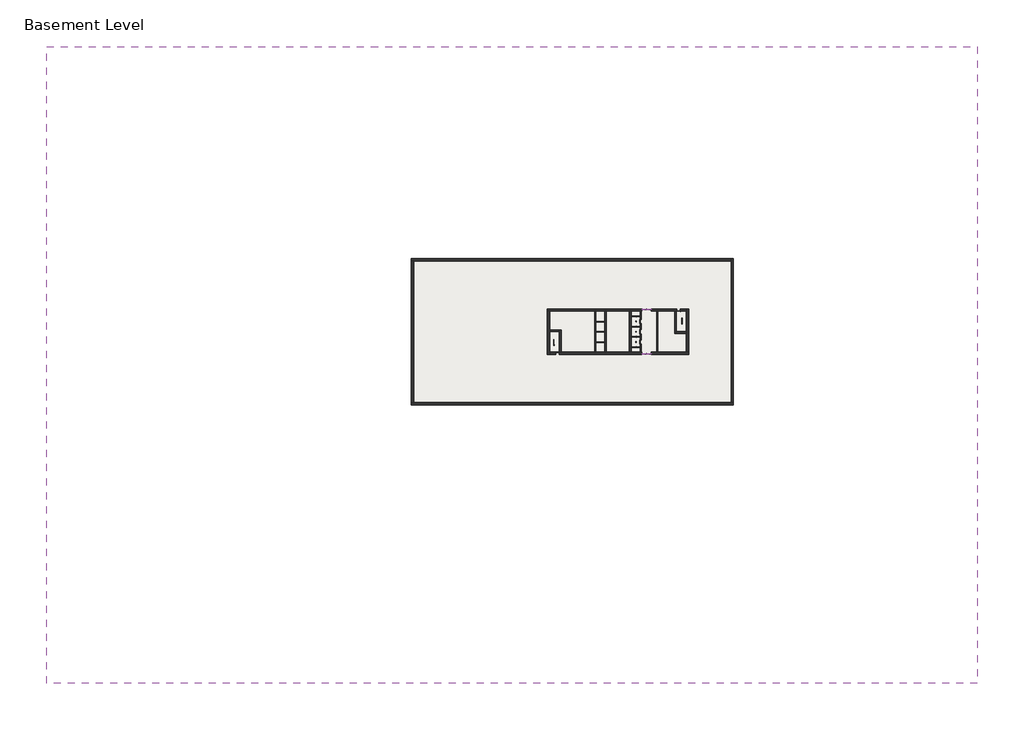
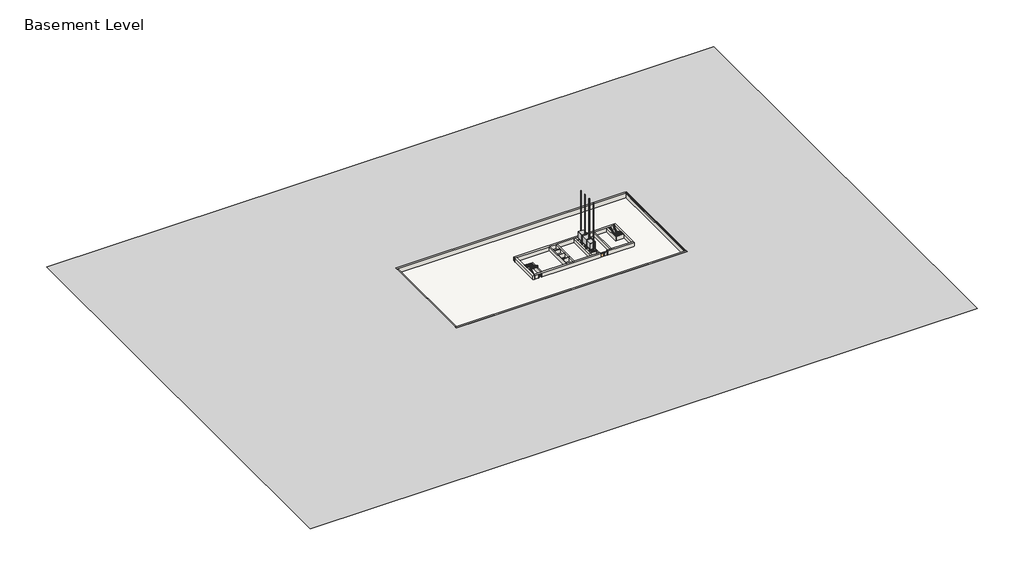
# One storey, incomplete: 24 members, 24 walls, 7 proxies, 6 plates, 4 doors, 4 railings, 3 slabs.
"""IFC4 building model written with IfcOpenShell, lengths in millimetres."""

from ifc_helpers import new_model, si_unit, frame, origin, place, context, project, spatial, polyline, outline, extrude, faceted_brep, triangles, transform, mapped, element, save
from components import proxy_3500_lbs_85ff0118, proxy_7fed659c, curtain_wall_sgl_glass_curtain_wall_sgl_glass_8fcb11fa, curtain_wall_sgl_glass_curtain_wall_sgl_glass_453d5037, door_c3c8cf1c, member_75074519, member_0585f7b2, member_9597caa3, member_b2bde9e6, member_8c690d98, member_3fe7ce38, system_panel_glazed_2148303e, system_panel_glazed_f840508f, system_panel_glazed_a7e6577e, system_panel_glazed_8ef02081, handrail_rectangular_c728cfe4, handrail_rectangular_09896a94, handrail_rectangular_35e503dc, handrail_rectangular_f2ca4272

model = new_model("IFC4")

# Units and contexts
model_context = context("Model", 3, world=origin())
ifc_project = project(units=[si_unit("LENGTHUNIT", "METRE", prefix="MILLI")], contexts=[model_context])

# Site, building, storey
site = spatial("IfcSite", under=ifc_project)
building = spatial("IfcBuilding", under=site)
storey = spatial("IfcBuildingStorey", under=building, Name="Basement Level", Elevation=-3048.0)

# Proxies
placement = place(None, origin())
element("IfcBuildingElementProxy", 1, Name="Building Element Proxy", at=placement, inside=storey, context=model_context, shape_type="Tessellation", body=[
    triangles([(78582.8406006, -100588.3346191, -152.4), (78582.8406006, 65222.8653809, -152.4), (-163596.3026367, 65222.8653809, -152.4), (-163596.3026367, -100588.3346191, -152.4), (-68723.8702881, -28082.2114746, -152.4), (-68723.8702881, 10017.7896881, -152.4), (-2048.1300716, 10017.7896881, -152.4), (15096.1285492, 10017.7896881, -152.4), (15096.1285492, -28082.2114746, -152.4), (-57695.9108643, -28082.2114746, -152.4)], [[4, 5, 3], [5, 4, 10], [5, 6, 3], [3, 6, 2], [4, 1, 10], [9, 1, 2], [1, 9, 10], [7, 8, 2], [2, 8, 9], [7, 2, 6]], closed=False),
])
proxy_3500_lbs_shape = proxy_3500_lbs_85ff0118(model_context)
element("IfcBuildingElementProxy", 2, Name="Elevator-Hydraulic[1] : 3500 lbs", ObjectType="Elevator-Hydraulic[1] : 3500 lbs", at=placement, inside=storey, context=model_context, shape_type="MappedRepresentation", body=[
    mapped(proxy_3500_lbs_shape, transform((-10221.2209663, -11691.7633527, -3048.0), x_axis=(0.0, -1.0, 0.0), y_axis=(1.0, 0.0, 0.0), z_axis=(0.0, 0.0, 1.0))),
])
element("IfcBuildingElementProxy", 3, Name="Elevator-Hydraulic[1] : 3500 lbs", ObjectType="Elevator-Hydraulic[1] : 3500 lbs", at=placement, inside=storey, context=model_context, shape_type="MappedRepresentation", body=[
    mapped(proxy_3500_lbs_shape, transform((-10221.2209663, -9024.7633527, -3048.0), x_axis=(0.0, -1.0, 0.0), y_axis=(1.0, 0.0, 0.0), z_axis=(0.0, 0.0, 1.0))),
])
element("IfcBuildingElementProxy", 4, Name="Elevator-Hydraulic[1] : 3500 lbs", ObjectType="Elevator-Hydraulic[1] : 3500 lbs", at=placement, inside=storey, context=model_context, shape_type="MappedRepresentation", body=[
    mapped(proxy_3500_lbs_shape, transform((-10221.2209663, -6357.7633527, -3048.0), x_axis=(0.0, -1.0, 0.0), y_axis=(1.0, 0.0, 0.0), z_axis=(0.0, 0.0, 1.0))),
])
proxy_shape = proxy_7fed659c(model_context)
element("IfcBuildingElementProxy", 5, Name="Elevator%20Door-Center[1] : 42\" x 84\"", ObjectType="Elevator%20Door-Center[1] : 42\" x 84\"", at=placement, inside=storey, context=model_context, shape_type="MappedRepresentation", body=[
    mapped(proxy_shape, transform((-9030.2427926, -6266.0747049, -3048.0), x_axis=(0.0, 1.0, 0.0), y_axis=(-1.0, 0.0, 0.0), z_axis=(0.0, 0.0, 1.0))),
])
element("IfcBuildingElementProxy", 6, Name="Elevator%20Door-Center[1] : 42\" x 84\"", ObjectType="Elevator%20Door-Center[1] : 42\" x 84\"", at=placement, inside=storey, context=model_context, shape_type="MappedRepresentation", body=[
    mapped(proxy_shape, transform((-9030.2427926, -8933.0747049, -3048.0), x_axis=(0.0, 1.0, 0.0), y_axis=(-1.0, 0.0, 0.0), z_axis=(0.0, 0.0, 1.0))),
])
element("IfcBuildingElementProxy", 7, Name="Elevator%20Door-Center[1] : 42\" x 84\"", ObjectType="Elevator%20Door-Center[1] : 42\" x 84\"", at=placement, inside=storey, context=model_context, shape_type="MappedRepresentation", body=[
    mapped(proxy_shape, transform((-9030.2427926, -11600.0747049, -3048.0), x_axis=(0.0, 1.0, 0.0), y_axis=(-1.0, 0.0, 0.0), z_axis=(0.0, 0.0, 1.0))),
])

# Doors
curtain_wall_sgl_glass_curtain_wall_sgl_glass_shape = curtain_wall_sgl_glass_curtain_wall_sgl_glass_8fcb11fa(model_context)
element("IfcDoor", 8, ObjectType="Curtain Wall Sgl Glass : Curtain Wall Sgl Glass", at=placement, inside=storey, context=model_context, shape_type="MappedRepresentation", body=[
    mapped(curtain_wall_sgl_glass_curtain_wall_sgl_glass_shape, transform((-8089.0820783, -3241.0103492, -3009.9), x_axis=(-1.0, 0.0, 0.0), y_axis=(0.0, -1.0, 0.0), z_axis=(0.0, 0.0, 1.0))),
])
curtain_wall_sgl_glass_curtain_wall_sgl_glass_2_shape = curtain_wall_sgl_glass_curtain_wall_sgl_glass_453d5037(model_context)
element("IfcDoor", 9, ObjectType="Curtain Wall Sgl Glass : Curtain Wall Sgl Glass", at=placement, inside=storey, context=model_context, shape_type="MappedRepresentation", body=[
    mapped(curtain_wall_sgl_glass_curtain_wall_sgl_glass_2_shape, transform((-8089.0820783, -14823.4103492, -3009.9), x_axis=(-1.0, 0.0, 0.0), y_axis=(0.0, -1.0, 0.0), z_axis=(0.0, 0.0, 1.0))),
])
door_shape = door_c3c8cf1c(model_context)
element("IfcDoor", 10, ObjectType="Single-Flush : 36\" x 84\"", at=placement, inside=storey, context=model_context, shape_type="MappedRepresentation", body=[
    mapped(door_shape, transform((-30700.0713641, -14671.0103492, -3048.0), x_axis=(1.0, 0.0, 0.0), y_axis=(0.0, 1.0, 0.0), z_axis=(0.0, 0.0, 1.0))),
])
element("IfcDoor", 11, ObjectType="Single-Flush : 36\" x 84\"", at=placement, inside=storey, context=model_context, shape_type="MappedRepresentation", body=[
    mapped(door_shape, transform((817.7000645, -3393.4103492, -3048.0), x_axis=(-1.0, 0.0, 0.0), y_axis=(0.0, -1.0, 0.0), z_axis=(0.0, 0.0, 1.0))),
])

# Members
member_shape = member_75074519(model_context)
element("IfcMember", 12, ObjectType="Rectangular Mullion : 2.5\" x 5\" rectangular", at=placement, inside=storey, context=model_context, shape_type="MappedRepresentation", body=[
    mapped(member_shape, transform((-6276.1570783, -3241.0103492, -434.975), x_axis=(0.0, 0.0, 1.0), y_axis=(0.0, -1.0, 0.0), z_axis=(1.0, 0.0, 0.0))),
])
element("IfcMember", 13, ObjectType="Rectangular Mullion : 2.5\" x 5\" rectangular", at=placement, inside=storey, context=model_context, shape_type="MappedRepresentation", body=[
    mapped(member_shape, transform((-7495.3570783, -3241.0103492, -434.975), x_axis=(0.0, 0.0, 1.0), y_axis=(0.0, -1.0, 0.0), z_axis=(1.0, 0.0, 0.0))),
])
element("IfcMember", 14, ObjectType="Rectangular Mullion : 2.5\" x 5\" rectangular", at=placement, inside=storey, context=model_context, shape_type="MappedRepresentation", body=[
    mapped(member_shape, transform((-8714.5570783, -3241.0103492, -3073.4), x_axis=(0.0, 0.0, -1.0), y_axis=(0.0, -1.0, 0.0), z_axis=(-1.0, 0.0, 0.0))),
])
element("IfcMember", 15, ObjectType="Rectangular Mullion : 2.5\" x 5\" rectangular", at=placement, inside=storey, context=model_context, shape_type="MappedRepresentation", body=[
    mapped(member_shape, transform((-7495.3570783, -3241.0103492, -3073.4), x_axis=(0.0, 0.0, -1.0), y_axis=(0.0, -1.0, 0.0), z_axis=(-1.0, 0.0, 0.0))),
])
member_2_shape = member_0585f7b2(model_context)
element("IfcMember", 16, ObjectType="Rectangular Mullion : 2.5\" x 5\" rectangular", at=placement, inside=storey, context=model_context, shape_type="MappedRepresentation", body=[
    mapped(member_2_shape, transform((-7495.3570783, -3241.0103492, -635.0), x_axis=(0.0, 0.0, 1.0), y_axis=(0.0, -1.0, 0.0), z_axis=(1.0, 0.0, 0.0))),
])
element("IfcMember", 17, ObjectType="Rectangular Mullion : 2.5\" x 5\" rectangular", at=placement, inside=storey, context=model_context, shape_type="MappedRepresentation", body=[
    mapped(member_2_shape, transform((-6339.6570783, -3241.0103492, -635.0), x_axis=(0.0, 0.0, 1.0), y_axis=(0.0, -1.0, 0.0), z_axis=(1.0, 0.0, 0.0))),
])
member_3_shape = member_9597caa3(model_context)
element("IfcMember", 18, ObjectType="Rectangular Mullion : 2.5\" x 5\" rectangular", at=placement, inside=storey, context=model_context, shape_type="MappedRepresentation", body=[
    mapped(member_3_shape, transform((-7495.3570783, -3241.0103492, -3009.9), x_axis=(1.0, 0.0, 0.0), y_axis=(0.0, -1.0, 0.0), z_axis=(0.0, 0.0, -1.0))),
])
member_4_shape = member_b2bde9e6(model_context)
element("IfcMember", 19, ObjectType="Rectangular Mullion : 2.5\" x 5\" rectangular", at=placement, inside=storey, context=model_context, shape_type="MappedRepresentation", body=[
    mapped(member_4_shape, transform((-6276.1570783, -3241.0103492, -3009.9), x_axis=(1.0, 0.0, 0.0), y_axis=(0.0, -1.0, 0.0), z_axis=(0.0, 0.0, -1.0))),
])
element("IfcMember", 20, ObjectType="Rectangular Mullion : 2.5\" x 5\" rectangular", at=placement, inside=storey, context=model_context, shape_type="MappedRepresentation", body=[
    mapped(member_4_shape, transform((-8714.5570783, -3241.0103492, -635.0), x_axis=(-1.0, 0.0, 0.0), y_axis=(0.0, -1.0, 0.0), z_axis=(0.0, 0.0, 1.0))),
])
element("IfcMember", 21, ObjectType="Rectangular Mullion : 2.5\" x 5\" rectangular", at=placement, inside=storey, context=model_context, shape_type="MappedRepresentation", body=[
    mapped(member_shape, transform((-8714.5570783, -14823.4103492, -3073.4), x_axis=(0.0, 0.0, -1.0), y_axis=(0.0, -1.0, 0.0), z_axis=(-1.0, 0.0, 0.0))),
])
element("IfcMember", 22, ObjectType="Rectangular Mullion : 2.5\" x 5\" rectangular", at=placement, inside=storey, context=model_context, shape_type="MappedRepresentation", body=[
    mapped(member_shape, transform((-7495.3570783, -14823.4103492, -3073.4), x_axis=(0.0, 0.0, -1.0), y_axis=(0.0, -1.0, 0.0), z_axis=(-1.0, 0.0, 0.0))),
])
element("IfcMember", 23, ObjectType="Rectangular Mullion : 2.5\" x 5\" rectangular", at=placement, inside=storey, context=model_context, shape_type="MappedRepresentation", body=[
    mapped(member_2_shape, transform((-7495.3570783, -14823.4103492, -635.0), x_axis=(0.0, 0.0, 1.0), y_axis=(0.0, -1.0, 0.0), z_axis=(1.0, 0.0, 0.0))),
])
element("IfcMember", 24, ObjectType="Rectangular Mullion : 2.5\" x 5\" rectangular", at=placement, inside=storey, context=model_context, shape_type="MappedRepresentation", body=[
    mapped(member_2_shape, transform((-6339.6570783, -14823.4103492, -635.0), x_axis=(0.0, 0.0, 1.0), y_axis=(0.0, -1.0, 0.0), z_axis=(1.0, 0.0, 0.0))),
])
element("IfcMember", 25, ObjectType="Rectangular Mullion : 2.5\" x 5\" rectangular", at=placement, inside=storey, context=model_context, shape_type="MappedRepresentation", body=[
    mapped(member_3_shape, transform((-7495.3570783, -14823.4103492, -3009.9), x_axis=(1.0, 0.0, 0.0), y_axis=(0.0, -1.0, 0.0), z_axis=(0.0, 0.0, -1.0))),
])
element("IfcMember", 26, ObjectType="Rectangular Mullion : 2.5\" x 5\" rectangular", at=placement, inside=storey, context=model_context, shape_type="MappedRepresentation", body=[
    mapped(member_4_shape, transform((-6276.1570783, -14823.4103492, -3009.9), x_axis=(1.0, 0.0, 0.0), y_axis=(0.0, -1.0, 0.0), z_axis=(0.0, 0.0, -1.0))),
])
element("IfcMember", 27, ObjectType="Rectangular Mullion : 2.5\" x 5\" rectangular", at=placement, inside=storey, context=model_context, shape_type="MappedRepresentation", body=[
    mapped(member_4_shape, transform((-8714.5570783, -14823.4103492, -635.0), x_axis=(-1.0, 0.0, 0.0), y_axis=(0.0, -1.0, 0.0), z_axis=(0.0, 0.0, 1.0))),
])
member_5_shape = member_8c690d98(model_context)
element("IfcMember", 28, ObjectType="Rectangular Mullion : 2.5\" x 5\" rectangular", at=placement, inside=storey, context=model_context, shape_type="MappedRepresentation", body=[
    mapped(member_5_shape, transform((-6276.1570783, -3241.0103492, -635.0), x_axis=(1.0, 0.0, 0.0), y_axis=(0.0, -1.0, 0.0), z_axis=(0.0, 0.0, -1.0))),
])
element("IfcMember", 29, ObjectType="Rectangular Mullion : 2.5\" x 5\" rectangular", at=placement, inside=storey, context=model_context, shape_type="MappedRepresentation", body=[
    mapped(member_5_shape, transform((-8714.5570783, -3241.0103492, -498.475), x_axis=(-1.0, 0.0, 0.0), y_axis=(0.0, -1.0, 0.0), z_axis=(0.0, 0.0, 1.0))),
])
member_6_shape = member_3fe7ce38(model_context)
element("IfcMember", 30, ObjectType="Rectangular Mullion : 2.5\" x 5\" rectangular", at=placement, inside=storey, context=model_context, shape_type="MappedRepresentation", body=[
    mapped(member_6_shape, transform((-7495.3570783, -3241.0103492, -603.25), x_axis=(1.0, 0.0, 0.0), y_axis=(0.0, -1.0, 0.0), z_axis=(0.0, 0.0, -1.0))),
])
element("IfcMember", 31, ObjectType="Rectangular Mullion : 2.5\" x 5\" rectangular", at=placement, inside=storey, context=model_context, shape_type="MappedRepresentation", body=[
    mapped(member_5_shape, transform((-6276.1570783, -14823.4103492, -635.0), x_axis=(1.0, 0.0, 0.0), y_axis=(0.0, -1.0, 0.0), z_axis=(0.0, 0.0, -1.0))),
])
element("IfcMember", 32, ObjectType="Rectangular Mullion : 2.5\" x 5\" rectangular", at=placement, inside=storey, context=model_context, shape_type="MappedRepresentation", body=[
    mapped(member_5_shape, transform((-8714.5570783, -14823.4103492, -498.475), x_axis=(-1.0, 0.0, 0.0), y_axis=(0.0, -1.0, 0.0), z_axis=(0.0, 0.0, 1.0))),
])
element("IfcMember", 33, ObjectType="Rectangular Mullion : 2.5\" x 5\" rectangular", at=placement, inside=storey, context=model_context, shape_type="MappedRepresentation", body=[
    mapped(member_6_shape, transform((-7495.3570783, -14823.4103492, -603.25), x_axis=(1.0, 0.0, 0.0), y_axis=(0.0, -1.0, 0.0), z_axis=(0.0, 0.0, -1.0))),
])
element("IfcMember", 34, ObjectType="Rectangular Mullion : 2.5\" x 5\" rectangular", at=placement, inside=storey, context=model_context, shape_type="MappedRepresentation", body=[
    mapped(member_shape, transform((-6276.1570783, -14823.4103492, -434.975), x_axis=(0.0, 0.0, 1.0), y_axis=(0.0, -1.0, 0.0), z_axis=(1.0, 0.0, 0.0))),
])
element("IfcMember", 35, ObjectType="Rectangular Mullion : 2.5\" x 5\" rectangular", at=placement, inside=storey, context=model_context, shape_type="MappedRepresentation", body=[
    mapped(member_shape, transform((-7495.3570783, -14823.4103492, -434.975), x_axis=(0.0, 0.0, 1.0), y_axis=(0.0, -1.0, 0.0), z_axis=(1.0, 0.0, 0.0))),
])

# Plates
system_panel_glazed_shape = system_panel_glazed_2148303e(model_context)
element("IfcPlate", 36, ObjectType="System Panel : Glazed", at=placement, inside=storey, context=model_context, shape_type="MappedRepresentation", body=[
    mapped(system_panel_glazed_shape, transform((-6901.6320783, -3241.0103492, -3009.9), x_axis=(1.0, 0.0, 0.0), y_axis=(0.0, 1.0, 0.0), z_axis=(0.0, 0.0, 1.0))),
])
system_panel_glazed_2_shape = system_panel_glazed_f840508f(model_context)
element("IfcPlate", 37, ObjectType="System Panel : Glazed", at=placement, inside=storey, context=model_context, shape_type="MappedRepresentation", body=[
    mapped(system_panel_glazed_2_shape, transform((-6901.6320783, -14823.4103492, -3009.9), x_axis=(1.0, 0.0, 0.0), y_axis=(0.0, 1.0, 0.0), z_axis=(0.0, 0.0, 1.0))),
])
system_panel_glazed_3_shape = system_panel_glazed_a7e6577e(model_context)
element("IfcPlate", 38, ObjectType="System Panel : Glazed", at=placement, inside=storey, context=model_context, shape_type="MappedRepresentation", body=[
    mapped(system_panel_glazed_3_shape, transform((-8089.0820783, -3241.0103492, -603.25), x_axis=(1.0, 0.0, 0.0), y_axis=(0.0, 1.0, 0.0), z_axis=(0.0, 0.0, 1.0))),
])
element("IfcPlate", 39, ObjectType="System Panel : Glazed", at=placement, inside=storey, context=model_context, shape_type="MappedRepresentation", body=[
    mapped(system_panel_glazed_3_shape, transform((-6901.6320783, -3241.0103492, -603.25), x_axis=(1.0, 0.0, 0.0), y_axis=(0.0, 1.0, 0.0), z_axis=(0.0, 0.0, 1.0))),
])
system_panel_glazed_4_shape = system_panel_glazed_8ef02081(model_context)
element("IfcPlate", 40, ObjectType="System Panel : Glazed", at=placement, inside=storey, context=model_context, shape_type="MappedRepresentation", body=[
    mapped(system_panel_glazed_4_shape, transform((-8089.0820783, -14823.4103492, -603.25), x_axis=(1.0, 0.0, 0.0), y_axis=(0.0, 1.0, 0.0), z_axis=(0.0, 0.0, 1.0))),
])
element("IfcPlate", 41, ObjectType="System Panel : Glazed", at=placement, inside=storey, context=model_context, shape_type="MappedRepresentation", body=[
    mapped(system_panel_glazed_4_shape, transform((-6901.6320783, -14823.4103492, -603.25), x_axis=(1.0, 0.0, 0.0), y_axis=(0.0, 1.0, 0.0), z_axis=(0.0, 0.0, 1.0))),
])

# Railings
handrail_rectangular_shape = handrail_rectangular_c728cfe4(model_context)
element("IfcRailing", 42, ObjectType="Handrail - Rectangular", at=placement, inside=storey, context=model_context, shape_type="MappedRepresentation", body=[
    mapped(handrail_rectangular_shape, transform((0.0, 0.0, 0.0), x_axis=(1.0, 0.0, 0.0), y_axis=(0.0, 1.0, 0.0), z_axis=(0.0, 0.0, 1.0))),
])
handrail_rectangular_2_shape = handrail_rectangular_09896a94(model_context)
element("IfcRailing", 43, ObjectType="Handrail - Rectangular", at=placement, inside=storey, context=model_context, shape_type="MappedRepresentation", body=[
    mapped(handrail_rectangular_2_shape, transform((0.0, 0.0, 0.0), x_axis=(1.0, 0.0, 0.0), y_axis=(0.0, 1.0, 0.0), z_axis=(0.0, 0.0, 1.0))),
])
handrail_rectangular_3_shape = handrail_rectangular_35e503dc(model_context)
element("IfcRailing", 44, ObjectType="Handrail - Rectangular", at=placement, inside=storey, context=model_context, shape_type="MappedRepresentation", body=[
    mapped(handrail_rectangular_3_shape, transform((0.0, 0.0, 0.0), x_axis=(1.0, 0.0, 0.0), y_axis=(0.0, 1.0, 0.0), z_axis=(0.0, 0.0, 1.0))),
])
handrail_rectangular_4_shape = handrail_rectangular_f2ca4272(model_context)
element("IfcRailing", 45, ObjectType="Handrail - Rectangular", at=placement, inside=storey, context=model_context, shape_type="MappedRepresentation", body=[
    mapped(handrail_rectangular_4_shape, transform((0.0, 0.0, 0.0), x_axis=(1.0, 0.0, 0.0), y_axis=(0.0, 1.0, 0.0), z_axis=(0.0, 0.0, 1.0))),
])

# Slabs
element("IfcSlab", 46, ObjectType="6\" Foundation Slab", at=placement, inside=storey, context=model_context, shape_type="SweptSolid", body=[
    extrude(outline(polyline([(-68114.2713641, -27472.6103492), (-68114.2713641, 9408.1896508), (14486.5286359, 9408.1896508), (14486.5286359, -27472.6103492), (-68114.2713641, -27472.6103492)])), frame((0.0, 0.0, -3200.4), z_axis=(0.0, 0.0, 1.0), x_axis=(1.0, 0.0, 0.0)), (0.0, 0.0, 1.0), 152.4),
])
element("IfcSlab", 47, ObjectType="Generic - 4\"", at=placement, inside=storey, context=model_context, shape_type="SweptSolid", body=[
    extrude(outline(polyline([(-68114.2713641, -27472.6103492), (-68114.2713641, 9408.1896508), (14486.5286359, 9408.1896508), (14486.5286359, -27472.6103492), (-68114.2713641, -27472.6103492)])), frame((0.0, 0.0, -3149.6), z_axis=(0.0, 0.0, 1.0), x_axis=(1.0, 0.0, 0.0)), (0.0, 0.0, 1.0), 101.6),
])
element("IfcSlab", 48, ObjectType="Pad 1", at=placement, inside=storey, context=model_context, shape_type="SweptSolid", body=[
    extrude(outline(polyline([(-68723.8713641, -28082.2103492), (-68723.8713641, 10017.7896508), (15096.1286359, 10017.7896508), (15096.1286359, -28082.2103492), (-68723.8713641, -28082.2103492)])), frame((0.0, 0.0, -2286.0), z_axis=(0.0, 0.0, 1.0), x_axis=(1.0, 0.0, 0.0)), (0.0, 0.0, 1.0), 304.8),
])

# Walls
element("IfcWall", 49, ObjectType="Core-shaft 10\" Concrete", at=placement, inside=storey, context=model_context, shape_type="SweptSolid", body=[
    extrude(outline(polyline([(-20725.1285069, -3698.2103492), (-20725.1285069, -14366.2103492), (-20979.1285069, -14366.2103492), (-20979.1285069, -3698.2103492), (-20725.1285069, -3698.2103492)])), frame((0.0, 0.0, -3048.0), z_axis=(0.0, 0.0, 1.0), x_axis=(1.0, 0.0, 0.0)), (0.0, 0.0, 1.0), 2613.025),
])
element("IfcWall", 50, ObjectType="Core-shaft 10\" Concrete", at=placement, inside=storey, context=model_context, shape_type="SweptSolid", body=[
    extrude(outline(polyline([(-3698.2103492, -3048.0), (-5825.4603492, -3048.0), (-5825.4603492, -889.0), (-6904.9603492, -889.0), (-6904.9603492, -3048.0), (-8492.4603492, -3048.0), (-8492.4603492, -889.0), (-9571.9603492, -889.0), (-9571.9603492, -3048.0), (-11159.4603492, -3048.0), (-11159.4603492, -889.0), (-12238.9603492, -889.0), (-12238.9603492, -3048.0), (-14366.2103492, -3048.0), (-14366.2103492, -434.975), (-3698.2103492, -434.975), (-3698.2103492, -3048.0)])), frame((-9157.2427926, 0.0, 0.0), z_axis=(1.0, 0.0, 0.0), x_axis=(0.0, 1.0, 0.0)), (0.0, 0.0, 1.0), 254.0),
])
element("IfcWall", 51, ObjectType="Core-shaft 10\" Concrete", at=placement, inside=storey, context=model_context, shape_type="SweptSolid", body=[
    extrude(outline(polyline([(-4636.0427926, -3698.2103492), (-4636.0427926, -14366.2103492), (-4890.0427926, -14366.2103492), (-4890.0427926, -3698.2103492), (-4636.0427926, -3698.2103492)])), frame((0.0, 0.0, -3048.0), z_axis=(0.0, 0.0, 1.0), x_axis=(1.0, 0.0, 0.0)), (0.0, 0.0, 1.0), 2613.025),
])
element("IfcWall", 52, ObjectType="Core-shaft 18\" Concrete", at=placement, inside=storey, context=model_context, shape_type="SweptSolid", body=[
    extrude(outline(polyline([(-18385.1284437, -14366.2103492), (-18385.1284437, -3698.2103492), (-17927.9284437, -3698.2103492), (-17927.9284437, -14366.2103492), (-18385.1284437, -14366.2103492)])), frame((0.0, 0.0, -3048.0), z_axis=(0.0, 0.0, 1.0), x_axis=(1.0, 0.0, 0.0)), (0.0, 0.0, 1.0), 2613.025),
])
element("IfcWall", 53, ObjectType="Core-shaft 18\" Concrete", at=placement, inside=storey, context=model_context, shape_type="Brep", body=[
    faceted_brep([(-29709.4713641, -14366.2103492, -3048.0), (-29709.4713641, -8575.0103492, -3048.0), (-29709.4713641, -8575.0103492, -434.975), (-29709.4713641, -14366.2103492, -434.975), (-30166.6713641, -14366.2103492, -3048.0), (-30166.6713641, -14366.2103492, -434.975), (-30166.6713641, -9032.2103492, -434.975), (-30166.6713641, -8575.0103492, -434.975), (-30166.6713641, -8575.0103492, -3048.0), (-30166.6713641, -9032.2103492, -3048.0)], [[[0, 1, 2, 3]], [[4, 5, 6, 7, 8, 9]], [[1, 0, 4, 9, 8]], [[0, 3, 5, 4]], [[2, 1, 8, 7]], [[3, 2, 7, 6, 5]]]),
])
element("IfcWall", 54, ObjectType="Core-shaft 18\" Concrete", at=placement, inside=storey, context=model_context, shape_type="SweptSolid", body=[
    extrude(outline(polyline([(-32750.2142212, -8575.0103492), (-30166.6713641, -8575.0103492), (-30166.6713641, -9032.2103492), (-32750.2142212, -9032.2103492), (-32750.2142212, -8575.0103492)])), frame((0.0, 0.0, -3048.0), z_axis=(0.0, 0.0, 1.0), x_axis=(1.0, 0.0, 0.0)), (0.0, 0.0, 1.0), 2613.025),
])
element("IfcWall", 55, ObjectType="Core-shaft 18\" Concrete", at=placement, inside=storey, context=model_context, shape_type="SweptSolid", body=[
    extrude(outline(polyline([(-11954.4428559, -14366.2103492), (-11954.4428559, -3698.2103492), (-11497.2428559, -3698.2103492), (-11497.2428559, -14366.2103492), (-11954.4428559, -14366.2103492)])), frame((0.0, 0.0, -3048.0), z_axis=(0.0, 0.0, 1.0), x_axis=(1.0, 0.0, 0.0)), (0.0, 0.0, 1.0), 2613.025),
])
element("IfcWall", 56, ObjectType="Core-shaft 18\" Concrete", at=placement, inside=storey, context=model_context, shape_type="Brep", body=[
    faceted_brep([(-172.8999355, -3698.2103492, -3048.0), (-172.8999355, -9489.4103492, -3048.0), (-172.8999355, -9489.4103492, -434.975), (-172.8999355, -3698.2103492, -434.975), (284.3000645, -3698.2103492, -3048.0), (284.3000645, -3698.2103492, -434.975), (284.3000645, -9032.2103492, -434.975), (284.3000645, -9489.4103492, -434.975), (284.3000645, -9489.4103492, -3048.0), (284.3000645, -9032.2103492, -3048.0)], [[[0, 1, 2, 3]], [[4, 5, 6, 7, 8, 9]], [[1, 0, 4, 9, 8]], [[0, 3, 5, 4]], [[2, 1, 8, 7]], [[3, 2, 7, 6, 5]]]),
])
element("IfcWall", 57, ObjectType="Core-shaft 18\" Concrete", at=placement, inside=storey, context=model_context, shape_type="SweptSolid", body=[
    extrude(outline(polyline([(2867.8429217, -9489.4103492), (284.3000645, -9489.4103492), (284.3000645, -9032.2103492), (2867.8429217, -9032.2103492), (2867.8429217, -9489.4103492)])), frame((0.0, 0.0, -3048.0), z_axis=(0.0, 0.0, 1.0), x_axis=(1.0, 0.0, 0.0)), (0.0, 0.0, 1.0), 2613.025),
])
element("IfcWall", 58, ObjectType="Core-shaft 24\" Concrete", at=placement, inside=storey, context=model_context, shape_type="Brep", body=[
    faceted_brep([(15096.1286359, -27472.6103492, -3048.0), (14486.5286359, -27472.6103492, -3048.0), (-68114.2713641, -27472.6103492, -3048.0), (-68723.8713641, -27472.6103492, -3048.0), (-68723.8713641, -27472.6103492, -434.975), (-68723.8713641, -27472.6103492, -127.0), (15096.1286359, -27472.6103492, -127.0), (15096.1286359, -27472.6103492, -434.975), (15096.1286359, -28082.2103492, -3048.0), (15096.1286359, -28082.2103492, -127.0), (-68723.8713641, -28082.2103492, -127.0), (-68723.8713641, -28082.2103492, -3048.0)], [[[0, 1, 2, 3, 4, 5, 6, 7]], [[8, 9, 10, 11]], [[3, 2, 1, 0, 8, 11]], [[6, 5, 10, 9]], [[0, 7, 6, 9, 8]], [[5, 4, 3, 11, 10]]]),
])
element("IfcWall", 59, ObjectType="Core-shaft 24\" Concrete", at=placement, inside=storey, context=model_context, shape_type="Brep", body=[
    faceted_brep([(14486.5286359, 10017.7896508, -3048.0), (14486.5286359, 9408.1896508, -3048.0), (14486.5286359, -27472.6103492, -3048.0), (14486.5286359, -27472.6103492, -434.975), (14486.5286359, 10017.7896508, -434.975), (15096.1286359, 10017.7896508, -3048.0), (15096.1286359, 10017.7896508, -434.975), (15096.1286359, 9953.8127769, -434.975), (15096.1286359, -27472.6103492, -434.975), (15096.1286359, -27472.6103492, -3048.0), (14575.0788114, 10017.7896508, -434.975), (14830.5804088, 10017.7896508, -434.975), (15043.3054088, 10017.7896508, -434.975), (15043.3054088, -27472.6103492, -434.975), (14830.5804088, -27472.6103492, -434.975), (15043.3054088, 9960.2986536, -434.975), (14830.5804088, 9986.4179993, -434.975), (14830.5804088, -14218.4266737, -434.975)], [[[0, 1, 2, 3, 4]], [[5, 6, 7, 8, 9]], [[2, 1, 0, 5, 9]], [[0, 4, 10, 11, 12, 6, 5]], [[3, 2, 9, 8, 13, 14]], [[13, 8, 7, 15]], [[7, 6, 12, 15]], [[14, 13, 15, 16, 17]], [[11, 10, 16]], [[12, 11, 16, 15]], [[4, 3, 14, 17, 16, 10]]]),
])
element("IfcWall", 60, ObjectType="Core-shaft 24\" Concrete", at=placement, inside=storey, context=model_context, shape_type="Brep", body=[
    faceted_brep([(-68723.8713641, 9408.1896508, -3048.0), (-68114.2713641, 9408.1896508, -3048.0), (14486.5286359, 9408.1896508, -3048.0), (14486.5286359, 9408.1896508, -127.0), (-68723.8713641, 9408.1896508, -127.0), (-68723.8713641, 9408.1896508, -434.975), (-68723.8713641, 10017.7896508, -3048.0), (-68723.8713641, 10017.7896508, -127.0), (14486.5286359, 10017.7896508, -127.0), (14486.5286359, 10017.7896508, -434.975), (14486.5286359, 10017.7896508, -3048.0)], [[[0, 1, 2, 3, 4, 5]], [[6, 7, 8, 9, 10]], [[2, 1, 0, 6, 10]], [[4, 3, 8, 7]], [[0, 5, 4, 7, 6]], [[3, 2, 10, 9, 8]]]),
])
element("IfcWall", 61, ObjectType="Core-shaft 24\" Concrete", at=placement, inside=storey, context=model_context, shape_type="SweptSolid", body=[
    extrude(outline(polyline([(-3048.0, -68114.2713641), (-434.975, -68114.2713641), (-434.975, -68660.7599961), (-434.975, -68723.8713641), (-3048.0, -68723.8713641), (-3048.0, -68114.2713641)])), frame((0.0, -27472.6103492, 0.0), z_axis=(0.0, 1.0, 0.0), x_axis=(0.0, 0.0, 1.0)), (0.0, 0.0, 1.0), 36880.8),
])
element("IfcWall", 62, ObjectType="Core-shaft 24\" Concrete", at=placement, inside=storey, context=model_context, shape_type="Brep", body=[
    faceted_brep([(-8714.5570783, -14366.2103492, -3048.0), (-8903.2427926, -14366.2103492, -3048.0), (-9157.2427926, -14366.2103492, -3048.0), (-11497.2428559, -14366.2103492, -3048.0), (-11954.4428559, -14366.2103492, -3048.0), (-17927.9284437, -14366.2103492, -3048.0), (-18385.1284437, -14366.2103492, -3048.0), (-20725.1285069, -14366.2103492, -3048.0), (-20979.1285069, -14366.2103492, -3048.0), (-29709.4713641, -14366.2103492, -3048.0), (-30166.6713641, -14366.2103492, -3048.0), (-30242.8713641, -14366.2103492, -3048.0), (-30242.8713641, -14366.2103492, -914.4), (-31157.2713641, -14366.2103492, -914.4), (-31157.2713641, -14366.2103492, -3048.0), (-32750.2142212, -14366.2103492, -3048.0), (-32750.2142212, -14366.2103492, -434.975), (-30166.6713641, -14366.2103492, -434.975), (-29709.4713641, -14366.2103492, -434.975), (-20979.1285069, -14366.2103492, -434.975), (-20725.1285069, -14366.2103492, -434.975), (-18385.1284437, -14366.2103492, -434.975), (-17927.9284437, -14366.2103492, -434.975), (-11954.4428559, -14366.2103492, -434.975), (-11497.2428559, -14366.2103492, -434.975), (-9157.2427926, -14366.2103492, -434.975), (-8903.2427926, -14366.2103492, -434.975), (-8714.5570783, -14366.2103492, -434.975), (-30242.8713641, -14975.8103492, -914.4), (-30242.8713641, -14975.8103492, -3048.0), (-8714.5570783, -14975.8103492, -3048.0), (-8714.5570783, -14975.8103492, -434.975), (-32750.2142212, -14975.8103492, -434.975), (-32750.2142212, -14975.8103492, -3048.0), (-31157.2713641, -14975.8103492, -3048.0), (-31157.2713641, -14975.8103492, -914.4)], [[[0, 1, 2, 3, 4, 5, 6, 7, 8, 9, 10, 11, 12, 13, 14, 15, 16, 17, 18, 19, 20, 21, 22, 23, 24, 25, 26, 27]], [[28, 29, 30, 31, 32, 33, 34, 35]], [[34, 33, 15, 14]], [[30, 29, 11, 10, 9, 8, 7, 6, 5, 4, 3, 2, 1, 0]], [[12, 11, 29, 28]], [[13, 12, 28, 35]], [[14, 13, 35, 34]], [[0, 27, 31, 30]], [[16, 15, 33, 32]], [[16, 32, 31, 27, 26, 25, 24, 23, 22, 21, 20, 19, 18, 17]]]),
    faceted_brep([(3477.4429217, -14366.2103492, -434.975), (3477.4429217, -14366.2103492, -3048.0), (2867.8429217, -14366.2103492, -3048.0), (-4636.0427926, -14366.2103492, -3048.0), (-4890.0427926, -14366.2103492, -3048.0), (-6276.1570783, -14366.2103492, -3048.0), (-6276.1570783, -14366.2103492, -434.975), (-4890.0427926, -14366.2103492, -434.975), (-4636.0427926, -14366.2103492, -434.975), (2867.8429217, -14366.2103492, -434.975), (3477.4429217, -14975.8103492, -3048.0), (3477.4429217, -14975.8103492, -434.975), (-6276.1570783, -14975.8103492, -434.975), (-6276.1570783, -14975.8103492, -3048.0)], [[[0, 1, 2, 3, 4, 5, 6, 7, 8, 9]], [[10, 11, 12, 13]], [[1, 10, 13, 5, 4, 3, 2]], [[6, 5, 13, 12]], [[1, 0, 11, 10]], [[11, 0, 9, 8, 7, 6, 12]]]),
])
element("IfcWall", 63, ObjectType="Core-shaft 24\" Concrete", at=placement, inside=storey, context=model_context, shape_type="Brep", body=[
    faceted_brep([(2867.8429217, -3088.6103492, -3048.0), (2867.8429217, -3698.2103492, -3048.0), (2867.8429217, -9032.2103492, -3048.0), (2867.8429217, -9489.4103492, -3048.0), (2867.8429217, -14366.2103492, -3048.0), (2867.8429217, -14366.2103492, -434.975), (2867.8429217, -9489.4103492, -434.975), (2867.8429217, -9032.2103492, -434.975), (2867.8429217, -3698.2103492, -434.975), (2867.8429217, -3088.6103492, -434.975), (3477.4429217, -3088.6103492, -3048.0), (3477.4429217, -3088.6103492, -434.975), (3477.4429217, -14366.2103492, -434.975), (3477.4429217, -14366.2103492, -3048.0)], [[[0, 1, 2, 3, 4, 5, 6, 7, 8, 9]], [[10, 11, 12, 13]], [[4, 3, 2, 1, 0, 10, 13]], [[5, 4, 13, 12]], [[0, 9, 11, 10]], [[9, 8, 7, 6, 5, 12, 11]]]),
])
element("IfcWall", 64, ObjectType="Core-shaft 24\" Concrete", at=placement, inside=storey, context=model_context, shape_type="Brep", body=[
    faceted_brep([(-6276.1570783, -3698.2103492, -3048.0), (-4890.0427926, -3698.2103492, -3048.0), (-4636.0427926, -3698.2103492, -3048.0), (-172.8999355, -3698.2103492, -3048.0), (284.3000645, -3698.2103492, -3048.0), (360.5000645, -3698.2103492, -3048.0), (360.5000645, -3698.2103492, -914.4), (1274.9000645, -3698.2103492, -914.4), (1274.9000645, -3698.2103492, -3048.0), (2867.8429217, -3698.2103492, -3048.0), (2867.8429217, -3698.2103492, -434.975), (284.3000645, -3698.2103492, -434.975), (-172.8999355, -3698.2103492, -434.975), (-4636.0427926, -3698.2103492, -434.975), (-4890.0427926, -3698.2103492, -434.975), (-6276.1570783, -3698.2103492, -434.975), (360.5000645, -3088.6103492, -914.4), (360.5000645, -3088.6103492, -3048.0), (-6276.1570783, -3088.6103492, -3048.0), (-6276.1570783, -3088.6103492, -434.975), (2867.8429217, -3088.6103492, -434.975), (2867.8429217, -3088.6103492, -3048.0), (1274.9000645, -3088.6103492, -3048.0), (1274.9000645, -3088.6103492, -914.4)], [[[0, 1, 2, 3, 4, 5, 6, 7, 8, 9, 10, 11, 12, 13, 14, 15]], [[16, 17, 18, 19, 20, 21, 22, 23]], [[22, 21, 9, 8]], [[18, 17, 5, 4, 3, 2, 1, 0]], [[0, 15, 19, 18]], [[6, 5, 17, 16]], [[7, 6, 16, 23]], [[8, 7, 23, 22]], [[10, 9, 21, 20]], [[10, 20, 19, 15, 14, 13, 12, 11]]]),
    faceted_brep([(-33359.8142212, -3698.2103492, -434.975), (-33359.8142212, -3698.2103492, -3048.0), (-32750.2142212, -3698.2103492, -3048.0), (-20979.1285069, -3698.2103492, -3048.0), (-20725.1285069, -3698.2103492, -3048.0), (-18385.1284437, -3698.2103492, -3048.0), (-17927.9284437, -3698.2103492, -3048.0), (-11954.4428559, -3698.2103492, -3048.0), (-11497.2428559, -3698.2103492, -3048.0), (-9157.2427926, -3698.2103492, -3048.0), (-8903.2427926, -3698.2103492, -3048.0), (-8714.5570783, -3698.2103492, -3048.0), (-8714.5570783, -3698.2103492, -434.975), (-8903.2427926, -3698.2103492, -434.975), (-9157.2427926, -3698.2103492, -434.975), (-11497.2428559, -3698.2103492, -434.975), (-11954.4428559, -3698.2103492, -434.975), (-17927.9284437, -3698.2103492, -434.975), (-18385.1284437, -3698.2103492, -434.975), (-20725.1285069, -3698.2103492, -434.975), (-20979.1285069, -3698.2103492, -434.975), (-32750.2142212, -3698.2103492, -434.975), (-33359.8142212, -3088.6103492, -3048.0), (-33359.8142212, -3088.6103492, -434.975), (-8714.5570783, -3088.6103492, -434.975), (-8714.5570783, -3088.6103492, -3048.0)], [[[0, 1, 2, 3, 4, 5, 6, 7, 8, 9, 10, 11, 12, 13, 14, 15, 16, 17, 18, 19, 20, 21]], [[22, 23, 24, 25]], [[1, 22, 25, 11, 10, 9, 8, 7, 6, 5, 4, 3, 2]], [[12, 11, 25, 24]], [[1, 0, 23, 22]], [[23, 0, 21, 20, 19, 18, 17, 16, 15, 14, 13, 12, 24]]]),
])
element("IfcWall", 65, ObjectType="Core-shaft 24\" Concrete", at=placement, inside=storey, context=model_context, shape_type="Brep", body=[
    faceted_brep([(-32750.2142212, -14975.8103492, -3048.0), (-32750.2142212, -14366.2103492, -3048.0), (-32750.2142212, -9032.2103492, -3048.0), (-32750.2142212, -8575.0103492, -3048.0), (-32750.2142212, -3698.2103492, -3048.0), (-32750.2142212, -3698.2103492, -434.975), (-32750.2142212, -8575.0103492, -434.975), (-32750.2142212, -9032.2103492, -434.975), (-32750.2142212, -14366.2103492, -434.975), (-32750.2142212, -14975.8103492, -434.975), (-33359.8142212, -14975.8103492, -3048.0), (-33359.8142212, -14975.8103492, -434.975), (-33359.8142212, -3698.2103492, -434.975), (-33359.8142212, -3698.2103492, -3048.0)], [[[0, 1, 2, 3, 4, 5, 6, 7, 8, 9]], [[10, 11, 12, 13]], [[4, 3, 2, 1, 0, 10, 13]], [[0, 9, 11, 10]], [[5, 4, 13, 12]], [[9, 8, 7, 6, 5, 12, 11]]]),
])
element("IfcWall", 66, ObjectType="Generic - 5\"", at=placement, inside=storey, context=model_context, shape_type="SweptSolid", body=[
    extrude(outline(polyline([(-18385.1284437, -11826.2103492), (-20725.1285069, -11826.2103492), (-20725.1285069, -11699.2103492), (-18385.1284437, -11699.2103492), (-18385.1284437, -11826.2103492)])), frame((0.0, 0.0, -3048.0), z_axis=(0.0, 0.0, 1.0), x_axis=(1.0, 0.0, 0.0)), (0.0, 0.0, 1.0), 2613.025),
])
element("IfcWall", 67, ObjectType="Generic - 5\"", at=placement, inside=storey, context=model_context, shape_type="SweptSolid", body=[
    extrude(outline(polyline([(-18385.1284437, -9159.2103492), (-20725.1285069, -9159.2103492), (-20725.1285069, -9032.2103492), (-18385.1284437, -9032.2103492), (-18385.1284437, -9159.2103492)])), frame((0.0, 0.0, -3048.0), z_axis=(0.0, 0.0, 1.0), x_axis=(1.0, 0.0, 0.0)), (0.0, 0.0, 1.0), 2613.025),
])
element("IfcWall", 68, ObjectType="Generic - 5\"", at=placement, inside=storey, context=model_context, shape_type="SweptSolid", body=[
    extrude(outline(polyline([(-18385.1284437, -6492.2103492), (-20725.1285069, -6492.2103492), (-20725.1285069, -6365.2103492), (-18385.1284437, -6365.2103492), (-18385.1284437, -6492.2103492)])), frame((0.0, 0.0, -3048.0), z_axis=(0.0, 0.0, 1.0), x_axis=(1.0, 0.0, 0.0)), (0.0, 0.0, 1.0), 2613.025),
])
element("IfcWall", 69, ObjectType="Generic - 5\"", at=placement, inside=storey, context=model_context, shape_type="SweptSolid", body=[
    extrude(outline(polyline([(-11497.2428559, -10302.2103492), (-9157.2427926, -10302.2103492), (-9157.2427926, -10429.2103492), (-11497.2428559, -10429.2103492), (-11497.2428559, -10302.2103492)])), frame((0.0, 0.0, -3048.0), z_axis=(0.0, 0.0, 1.0), x_axis=(1.0, 0.0, 0.0)), (0.0, 0.0, 1.0), 2613.025),
])
element("IfcWall", 70, ObjectType="Generic - 5\"", at=placement, inside=storey, context=model_context, shape_type="SweptSolid", body=[
    extrude(outline(polyline([(-11497.2428559, -7635.2103492), (-9157.2427926, -7635.2103492), (-9157.2427926, -7762.2103492), (-11497.2428559, -7762.2103492), (-11497.2428559, -7635.2103492)])), frame((0.0, 0.0, -3048.0), z_axis=(0.0, 0.0, 1.0), x_axis=(1.0, 0.0, 0.0)), (0.0, 0.0, 1.0), 2613.025),
])
element("IfcWall", 71, ObjectType="Generic - 5\"", at=placement, inside=storey, context=model_context, shape_type="SweptSolid", body=[
    extrude(outline(polyline([(-11497.2428559, -4968.2103492), (-9157.2427926, -4968.2103492), (-9157.2427926, -5095.2103492), (-11497.2428559, -5095.2103492), (-11497.2428559, -4968.2103492)])), frame((0.0, 0.0, -3048.0), z_axis=(0.0, 0.0, 1.0), x_axis=(1.0, 0.0, 0.0)), (0.0, 0.0, 1.0), 2613.025),
])
element("IfcWall", 72, ObjectType="Generic - 5\"", at=placement, inside=storey, context=model_context, shape_type="SweptSolid", body=[
    extrude(outline(polyline([(-11497.2428559, -12969.2103492), (-9157.2427926, -12969.2103492), (-9157.2427926, -13096.2103492), (-11497.2428559, -13096.2103492), (-11497.2428559, -12969.2103492)])), frame((0.0, 0.0, -3048.0), z_axis=(0.0, 0.0, 1.0), x_axis=(1.0, 0.0, 0.0)), (0.0, 0.0, 1.0), 2613.025),
])

save(model, "model.ifc")
